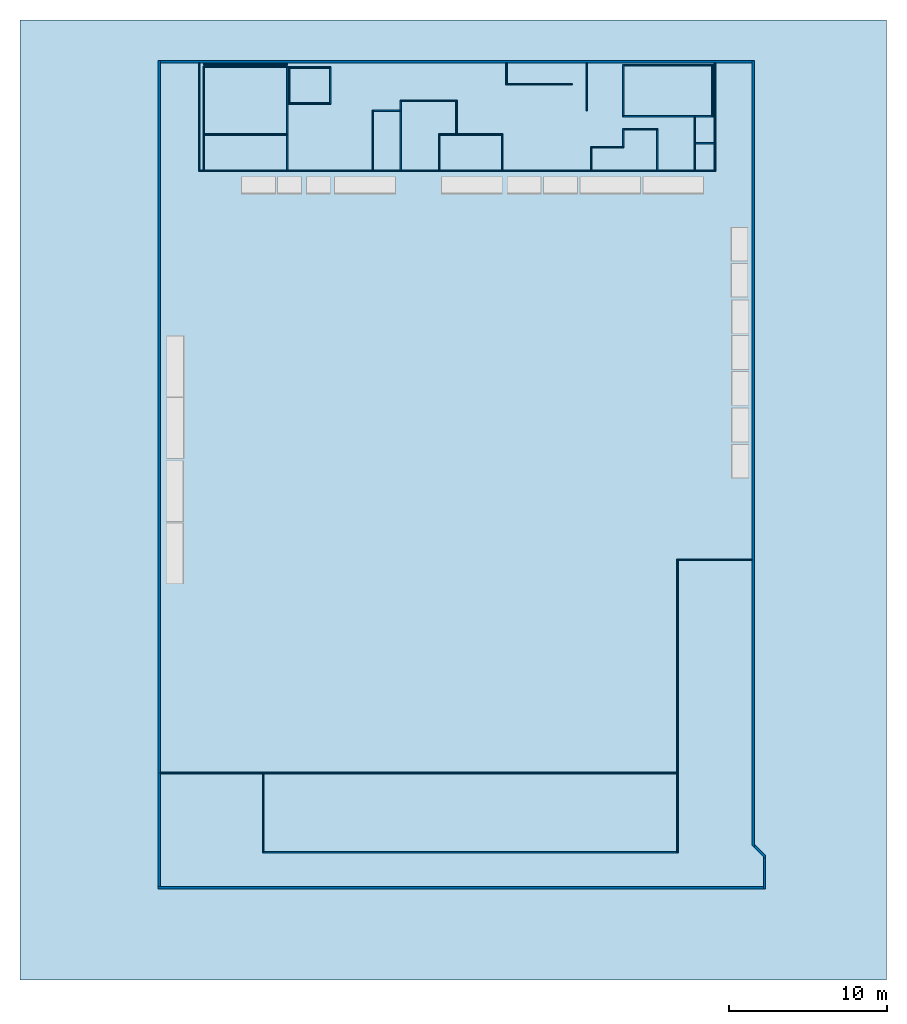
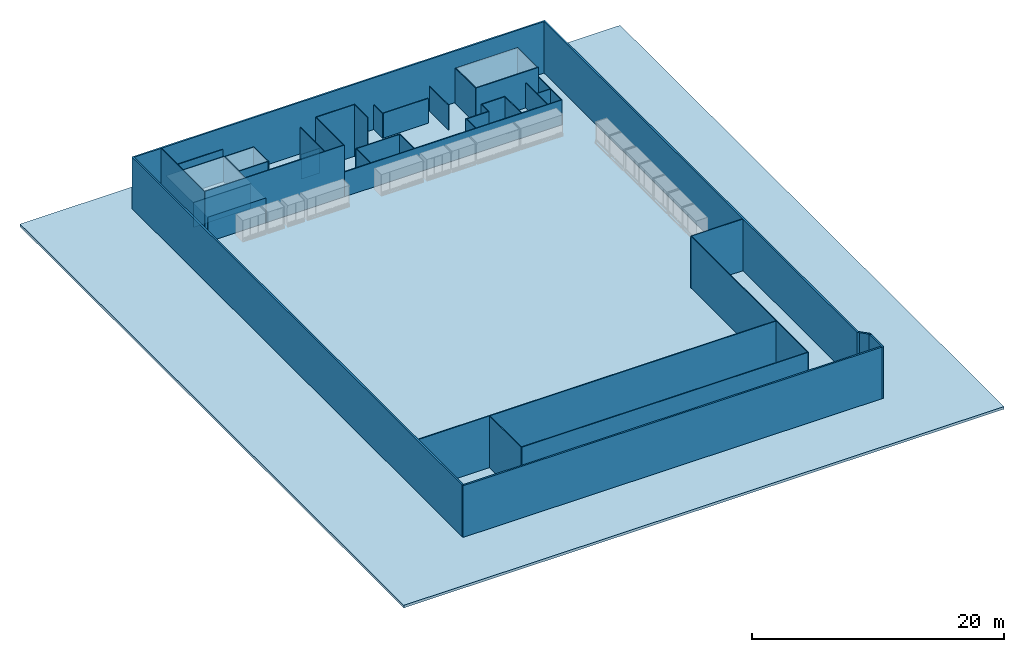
# One storey, part 1 of 11: 47 walls, 5 slabs.
"""IFC2X3 building model written with IfcOpenShell, lengths in metres."""

from ifc_helpers import new_model, entity, si_unit, converted_unit, derived_unit, direction, frame, frame_2d, origin, origin_2d_with_axis, place, context, subcontext, project, spatial, polyline, rectangle, outline, extrude, clip, bounded_halfspace, material, layer, layer_set, layer_usage, type_object, element, save


model = new_model("IFC2X3")

# Units and contexts
model_context = context("Model", 3, precision=1e-05, world=origin(), true_north=direction((6.12303176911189e-17, 1.0)))
body_context = subcontext(model_context, "Body", "Model", "MODEL_VIEW")
ifc_project = project(units=[si_unit("LENGTHUNIT", "METRE"), si_unit("AREAUNIT", "SQUARE_METRE"), si_unit("VOLUMEUNIT", "CUBIC_METRE"), converted_unit("PLANEANGLEUNIT", "DEGREE", entity("IfcRatioMeasure", 0.0174532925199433), si_unit("PLANEANGLEUNIT", "RADIAN"), dimensions=[0, 0, 0, 0, 0, 0, 0]), si_unit("MASSUNIT", "GRAM", prefix="KILO"), derived_unit("MASSDENSITYUNIT", [(si_unit("MASSUNIT", "GRAM", prefix="KILO"), 1), (si_unit("LENGTHUNIT", "METRE"), -3)]), si_unit("TIMEUNIT", "SECOND"), si_unit("FREQUENCYUNIT", "HERTZ"), si_unit("THERMODYNAMICTEMPERATUREUNIT", "DEGREE_CELSIUS"), derived_unit("THERMALTRANSMITTANCEUNIT", [(si_unit("MASSUNIT", "GRAM", prefix="KILO"), 1), (si_unit("THERMODYNAMICTEMPERATUREUNIT", "KELVIN"), -1), (si_unit("TIMEUNIT", "SECOND"), -3)]), derived_unit("VOLUMETRICFLOWRATEUNIT", [(si_unit("LENGTHUNIT", "METRE"), 3), (si_unit("TIMEUNIT", "SECOND"), -1)]), si_unit("ELECTRICCURRENTUNIT", "AMPERE"), si_unit("ELECTRICVOLTAGEUNIT", "VOLT"), si_unit("POWERUNIT", "WATT"), si_unit("FORCEUNIT", "NEWTON", prefix="KILO"), si_unit("ILLUMINANCEUNIT", "LUX"), si_unit("LUMINOUSFLUXUNIT", "LUMEN"), si_unit("LUMINOUSINTENSITYUNIT", "CANDELA"), derived_unit("USERDEFINED", [(si_unit("MASSUNIT", "GRAM", prefix="KILO"), -1), (si_unit("LENGTHUNIT", "METRE"), -2), (si_unit("TIMEUNIT", "SECOND"), 3), (si_unit("LUMINOUSFLUXUNIT", "LUMEN"), 1)]), derived_unit("LINEARVELOCITYUNIT", [(si_unit("LENGTHUNIT", "METRE"), 1), (si_unit("TIMEUNIT", "SECOND"), -1)]), si_unit("PRESSUREUNIT", "PASCAL"), derived_unit("USERDEFINED", [(si_unit("LENGTHUNIT", "METRE"), -2), (si_unit("MASSUNIT", "GRAM", prefix="KILO"), 1), (si_unit("TIMEUNIT", "SECOND"), -2)])], contexts=[model_context])

# Site, building, storey
site_placement = place(None, origin())
site = spatial("IfcSite", under=ifc_project, at=site_placement, Name="Default", CompositionType="ELEMENT")
building_placement = place(site_placement, origin())
building = spatial("IfcBuilding", under=site, at=building_placement, CompositionType="ELEMENT")
storey_placement = place(building_placement, frame((0.0, 0.0, 1.49233632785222)))
storey = spatial("IfcBuildingStorey", under=building, at=storey_placement, Name="Niveau 0", CompositionType="ELEMENT", Elevation=1.49233632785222)

# Slabs
ifc_material_1 = material(Name="Maçonnerie - Béton")
ifc_layer_1 = layer(ifc_material_1, 0.08)
ifc_layer_set_1 = layer_set([ifc_layer_1], Name="Sol:Dalle en béton - 80 mm")
ifc_layer_usage_1 = layer_usage(ifc_layer_set_1, "AXIS3", "POSITIVE", 0.0)
slab_type_1 = type_object("IfcSlabType", Name="Sol:Dalle en béton - 80 mm", PredefinedType="FLOOR", material=ifc_layer_set_1)
slab_1_placement = place(storey_placement, origin())
element("IfcSlab", 1, at=slab_1_placement, inside=storey, type_object=slab_type_1, material=ifc_layer_usage_1, Name="Sol:Dalle en béton - 80 mm", ObjectType="Sol:Dalle en béton - 80 mm", PredefinedType="FLOOR", context=body_context, shape_type="SweptSolid", body=[
    extrude(rectangle(XDim=4.29617941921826, YDim=5.34544618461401, at=frame_2d((4.44089209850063e-16, 0.0), x_axis=(1.0, 0.0))), frame((2.09019998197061, 4.81293960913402, 2.4), z_axis=(0.0, 0.0, -1.0), x_axis=(0.0, 1.0, 0.0)), (0.0, 0.0, 1.0), 0.0800000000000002),
])
ifc_layer_usage_2 = layer_usage(ifc_layer_set_1, "AXIS3", "POSITIVE", 0.0)
slab_type_2 = type_object("IfcSlabType", Name="Sol:Dalle en béton - 80 mm", PredefinedType="FLOOR", material=ifc_layer_set_1)
slab_2_placement = place(storey_placement, origin())
element("IfcSlab", 2, at=slab_2_placement, inside=storey, type_object=slab_type_2, material=ifc_layer_usage_2, Name="Sol:Dalle en béton - 80 mm", ObjectType="Sol:Dalle en béton - 80 mm", PredefinedType="FLOOR", context=body_context, shape_type="SweptSolid", body=[
    extrude(rectangle(XDim=2.30876789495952, YDim=5.30000000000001, at=origin_2d_with_axis()), frame((2.05447785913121, 1.50476650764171, 2.4), z_axis=(0.0, 0.0, -1.0), x_axis=(0.0, 1.0, 0.0)), (0.0, 0.0, 1.0), 0.0800000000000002),
])
ifc_layer_usage_3 = layer_usage(ifc_layer_set_1, "AXIS3", "POSITIVE", 0.0)
slab_type_3 = type_object("IfcSlabType", Name="Sol:Dalle en béton - 80 mm", PredefinedType="FLOOR", material=ifc_layer_set_1)
slab_3_placement = place(storey_placement, origin())
element("IfcSlab", 3, at=slab_3_placement, inside=storey, type_object=slab_type_3, material=ifc_layer_usage_3, Name="Sol:Dalle en béton - 80 mm", ObjectType="Sol:Dalle en béton - 80 mm", PredefinedType="FLOOR", context=body_context, shape_type="SweptSolid", body=[
    extrude(rectangle(XDim=2.25713213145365, YDim=2.65284619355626, at=frame_2d((-4.44089209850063e-16, 2.22044604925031e-16), x_axis=(1.0, 0.0))), frame((6.11041263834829, 5.7784208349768, 2.4), z_axis=(0.0, 0.0, -1.0), x_axis=(0.0, 1.0, 0.0)), (0.0, 0.0, 1.0), 0.0800000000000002),
])
ifc_layer_usage_4 = layer_usage(ifc_layer_set_1, "AXIS3", "POSITIVE", 0.0)
slab_type_4 = type_object("IfcSlabType", Name="Sol:Dalle en béton - 80 mm", PredefinedType="FLOOR", material=ifc_layer_set_1)
slab_4_placement = place(storey_placement, origin())
element("IfcSlab", 4, at=slab_4_placement, inside=storey, type_object=slab_type_4, material=ifc_layer_usage_4, Name="Sol:Dalle en béton - 80 mm", ObjectType="Sol:Dalle en béton - 80 mm", PredefinedType="FLOOR", context=body_context, shape_type="SweptSolid", body=[
    extrude(rectangle(XDim=3.16324074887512, YDim=5.62600395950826, at=frame_2d((0.0, -1.99840144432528e-15), x_axis=(1.0, 0.0))), frame((28.837791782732, 5.44056666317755, 3.5), z_axis=(0.0, 0.0, -1.0), x_axis=(0.0, 1.0, 0.0)), (0.0, 0.0, 1.0), 0.0800000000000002),
])
ifc_layer_2 = layer(ifc_material_1, 0.25)
ifc_layer_set_2 = layer_set([ifc_layer_2], Name="Sol:Dalle en béton - 250 mm")
ifc_layer_usage_5 = layer_usage(ifc_layer_set_2, "AXIS3", "POSITIVE", 0.0)
slab_type_5 = type_object("IfcSlabType", Name="Sol:Dalle en béton - 250 mm", PredefinedType="FLOOR", material=ifc_layer_set_2)
slab_5_placement = place(storey_placement, origin())
element("IfcSlab", 5, at=slab_5_placement, inside=storey, type_object=slab_type_5, material=ifc_layer_usage_5, Name="Sol:Dalle en béton - 250 mm", ObjectType="Sol:Dalle en béton - 250 mm", PredefinedType="FLOOR", context=body_context, shape_type="SweptSolid", body=[
    extrude(rectangle(XDim=60.8818990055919, YDim=54.9647186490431, at=origin_2d_with_axis()), frame((15.241466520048, -20.5197975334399, 0.0), z_axis=(0.0, 0.0, -1.0), x_axis=(0.0, 1.0, 0.0)), (0.0, 0.0, 1.0), 0.25),
])

# Walls
ifc_material_2 = material(Name="Mur par défaut")
ifc_layer_3 = layer(ifc_material_2, 0.07)
ifc_layer_set_3 = layer_set([ifc_layer_3], Name="Mur de base:Générique - Int. 70 mm")
ifc_layer_usage_6 = layer_usage(ifc_layer_set_3, "AXIS2", "NEGATIVE", 0.035)
wall_type_1 = type_object("IfcWallType", Name="Mur de base:Générique - Int. 70 mm", PredefinedType="STANDARD", material=ifc_layer_set_3)
wall_1_placement = place(storey_placement, frame((4.78183573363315, 6.90698690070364, 0.0)))
element("IfcWallStandardCase", 6, at=wall_1_placement, inside=storey, type_object=wall_type_1, material=ifc_layer_usage_6, Name="Mur de base:Générique - Int. 70 mm", ObjectType="Mur de base:Générique - Int. 70 mm", context=body_context, shape_type="SweptSolid", body=[
    extrude(rectangle(XDim=2.69000000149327, YDim=0.0699999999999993, at=frame_2d((1.34500000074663, 2.56739074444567e-16), x_axis=(-1.0, 0.0))), origin(), (0.0, 0.0, 1.0), 2.4),
])
ifc_layer_usage_7 = layer_usage(ifc_layer_set_3, "AXIS2", "NEGATIVE", 0.035)
wall_2_placement = place(storey_placement, frame((7.43683573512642, 6.87198690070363, 0.0), z_axis=(0.0, 0.0, 1.0), x_axis=(0.0, -1.0, 0.0)))
element("IfcWallStandardCase", 7, at=wall_2_placement, inside=storey, type_object=wall_type_1, material=ifc_layer_usage_7, Name="Mur de base:Générique - Int. 70 mm", ObjectType="Mur de base:Générique - Int. 70 mm", context=body_context, shape_type="SweptSolid", body=[
    extrude(rectangle(XDim=2.28371681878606, YDim=0.0699999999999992, at=frame_2d((1.14185840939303, -1.90819582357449e-16), x_axis=(-1.0, 0.0))), origin(), (0.0, 0.0, 1.0), 2.4),
])
ifc_layer_usage_8 = layer_usage(ifc_layer_set_3, "AXIS2", "NEGATIVE", 0.035)
wall_3_placement = place(storey_placement, frame((7.40183573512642, 4.62327008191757, 0.0), z_axis=(0.0, 0.0, 1.0), x_axis=(-1.0, 0.0, 0.0)))
element("IfcWallStandardCase", 8, at=wall_3_placement, inside=storey, type_object=wall_type_1, material=ifc_layer_usage_8, Name="Mur de base:Générique - Int. 70 mm", ObjectType="Mur de base:Générique - Int. 70 mm", context=body_context, shape_type="SweptSolid", body=[
    extrude(rectangle(XDim=2.62000000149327, YDim=0.0700000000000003, at=frame_2d((1.31000000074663, -1.42247325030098e-16), x_axis=(-1.0, 0.0))), origin(), (0.0, 0.0, 1.0), 2.4),
])
ifc_layer_usage_9 = layer_usage(ifc_layer_set_3, "AXIS2", "NEGATIVE", 0.035)
wall_4_placement = place(storey_placement, frame((4.81683573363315, 4.65827008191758, 0.0), z_axis=(0.0, 0.0, 1.0), x_axis=(0.0, 1.0, 0.0)))
element("IfcWallStandardCase", 9, at=wall_4_placement, inside=storey, type_object=wall_type_1, material=ifc_layer_usage_9, Name="Mur de base:Générique - Int. 70 mm", ObjectType="Mur de base:Générique - Int. 70 mm", context=body_context, shape_type="SweptSolid", body=[
    extrude(rectangle(XDim=2.21371681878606, YDim=0.0700000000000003, at=frame_2d((1.10685840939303, 2.08166817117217e-17), x_axis=(-1.0, 0.0))), origin(), (0.0, 0.0, 1.0), 2.4),
])
ifc_layer_usage_10 = layer_usage(ifc_layer_set_3, "AXIS2", "NEGATIVE", 0.035)
wall_5_placement = place(storey_placement, frame((-0.595522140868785, 7.12698690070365, 0.0)))
element("IfcWallStandardCase", 10, at=wall_5_placement, inside=storey, type_object=wall_type_1, material=ifc_layer_usage_10, Name="Mur de base:Générique - Int. 70 mm", ObjectType="Mur de base:Générique - Int. 70 mm", context=body_context, shape_type="SweptSolid", body=[
    extrude(rectangle(XDim=5.3, YDim=0.0699999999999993, at=frame_2d((2.65, 4.16333634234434e-17), x_axis=(-1.0, 0.0))), origin(), (0.0, 0.0, 1.0), 3.0),
])
ifc_layer_usage_11 = layer_usage(ifc_layer_set_3, "AXIS2", "NEGATIVE", 0.035)
wall_6_placement = place(storey_placement, frame((4.70447785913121, 6.92602931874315, 0.0), z_axis=(0.0, 0.0, 1.0), x_axis=(0.0, -1.0, 0.0)))
element("IfcWallStandardCase", 11, at=wall_6_placement, inside=storey, type_object=wall_type_1, material=ifc_layer_usage_11, Name="Mur de base:Générique - Int. 70 mm", ObjectType="Mur de base:Générique - Int. 70 mm", context=body_context, shape_type="SweptSolid", body=[
    extrude(rectangle(XDim=6.54064675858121, YDim=0.0700000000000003, at=frame_2d((3.2703233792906, 2.18575157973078e-16), x_axis=(-1.0, 0.0))), origin(), (0.0, 0.0, 1.0), 2.4),
])
ifc_layer_usage_12 = layer_usage(ifc_layer_set_3, "AXIS2", "NEGATIVE", 0.035)
wall_7_placement = place(storey_placement, frame((4.66947785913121, 2.65915045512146, 0.0), z_axis=(0.0, 0.0, 1.0), x_axis=(-1.0, 0.0, 0.0)))
element("IfcWallStandardCase", 12, at=wall_7_placement, inside=storey, type_object=wall_type_1, material=ifc_layer_usage_12, Name="Mur de base:Générique - Int. 70 mm", ObjectType="Mur de base:Générique - Int. 70 mm", context=body_context, shape_type="SweptSolid", body=[
    extrude(rectangle(XDim=5.23000000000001, YDim=0.0700000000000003, at=frame_2d((2.615, -1.14491749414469e-16), x_axis=(-1.0, 0.0))), origin(), (0.0, 0.0, 1.0), 2.4),
])
ifc_layer_usage_13 = layer_usage(ifc_layer_set_3, "AXIS2", "NEGATIVE", 0.035)
wall_8_placement = place(storey_placement, frame((4.73947785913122, 6.96102931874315, 0.0), z_axis=(0.0, 0.0, 1.0), x_axis=(-1.0, 0.0, 0.0)))
element("IfcWallStandardCase", 13, at=wall_8_placement, inside=storey, type_object=wall_type_1, material=ifc_layer_usage_13, Name="Mur de base:Générique - Int. 70 mm", ObjectType="Mur de base:Générique - Int. 70 mm", context=body_context, shape_type="SweptSolid", body=[
    extrude(rectangle(XDim=5.3, YDim=0.0699999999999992, at=frame_2d((2.65, 0.0), x_axis=(-1.0, 0.0))), origin(), (0.0, 0.0, 1.0), 2.4),
])
ifc_layer_usage_14 = layer_usage(ifc_layer_set_3, "AXIS2", "NEGATIVE", 0.035)
wall_9_placement = place(storey_placement, frame((-0.595522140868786, 6.99602931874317, 0.0), z_axis=(0.0, 0.0, 1.0), x_axis=(0.0, -1.0, 0.0)))
element("IfcWallStandardCase", 14, at=wall_9_placement, inside=storey, type_object=wall_type_1, material=ifc_layer_usage_14, Name="Mur de base:Générique - Int. 70 mm", ObjectType="Mur de base:Générique - Int. 70 mm", context=body_context, shape_type="SweptSolid", body=[
    extrude(rectangle(XDim=6.68064675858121, YDim=0.0700000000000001, at=frame_2d((3.3403233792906, 4.5102810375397e-17), x_axis=(-1.0, 0.0))), origin(), (0.0, 0.0, 1.0), 2.4),
])
ifc_layer_usage_15 = layer_usage(ifc_layer_set_3, "AXIS2", "NEGATIVE", 0.035)
wall_10_placement = place(storey_placement, frame((-0.560522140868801, 0.350382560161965, 0.0)))
element("IfcWallStandardCase", 15, at=wall_10_placement, inside=storey, type_object=wall_type_1, material=ifc_layer_usage_15, Name="Mur de base:Générique - Int. 70 mm", ObjectType="Mur de base:Générique - Int. 70 mm", context=body_context, shape_type="SweptSolid", body=[
    extrude(rectangle(XDim=5.30000000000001, YDim=0.0700000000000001, at=frame_2d((2.65, 0.0), x_axis=(-1.0, 0.0))), origin(), (0.0, 0.0, 1.0), 2.4),
])
ifc_layer_usage_16 = layer_usage(ifc_layer_set_3, "AXIS2", "NEGATIVE", 0.035)
wall_11_placement = place(storey_placement, frame((10.1366921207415, 0.385382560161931, 0.0), z_axis=(0.0, 0.0, 1.0), x_axis=(0.0, 1.0, 0.0)))
element("IfcWallStandardCase", 16, at=wall_11_placement, inside=storey, type_object=wall_type_1, material=ifc_layer_usage_16, Name="Mur de base:Générique - Int. 70 mm", ObjectType="Mur de base:Générique - Int. 70 mm", context=body_context, shape_type="SweptSolid", body=[
    extrude(rectangle(XDim=3.81519610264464, YDim=0.0700000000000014, at=frame_2d((1.90759805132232, 0.0), x_axis=(-1.0, 0.0))), origin(), (0.0, 0.0, 1.0), 5.0),
])
ifc_layer_usage_17 = layer_usage(ifc_layer_set_3, "AXIS2", "NEGATIVE", 0.035)
wall_12_placement = place(storey_placement, frame((10.1716921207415, 4.16557866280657, 0.0)))
element("IfcWallStandardCase", 17, at=wall_12_placement, inside=storey, type_object=wall_type_1, material=ifc_layer_usage_17, Name="Mur de base:Générique - Int. 70 mm", ObjectType="Mur de base:Générique - Int. 70 mm", context=body_context, shape_type="SweptSolid", body=[
    extrude(rectangle(XDim=1.69770911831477, YDim=0.0700000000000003, at=frame_2d((0.848854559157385, -1.17961196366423e-16), x_axis=(-1.0, 0.0))), origin(), (0.0, 0.0, 1.0), 2.4),
])
ifc_layer_usage_18 = layer_usage(ifc_layer_set_3, "AXIS2", "NEGATIVE", 0.035)
wall_13_placement = place(storey_placement, frame((-0.862656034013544, 7.20798690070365, 0.0), z_axis=(0.0, 0.0, 1.0), x_axis=(0.0, -1.0, 0.0)))
element("IfcWallStandardCase", 18, at=wall_13_placement, inside=storey, type_object=wall_type_1, material=ifc_layer_usage_18, Name="Mur de base:Générique - Int. 70 mm", ObjectType="Mur de base:Générique - Int. 70 mm", context=body_context, shape_type="SweptSolid", body=[
    extrude(rectangle(XDim=6.89260434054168, YDim=0.0700000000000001, at=frame_2d((3.44630217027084, 3.46944695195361e-17), x_axis=(-1.0, 0.0))), origin(), (0.0, 0.0, 1.0), 5.0),
])
ifc_layer_usage_19 = layer_usage(ifc_layer_set_3, "AXIS2", "NEGATIVE", 0.035)
wall_14_placement = place(storey_placement, frame((-0.827656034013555, 0.350382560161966, 0.0)))
element("IfcWallStandardCase", 19, at=wall_14_placement, inside=storey, type_object=wall_type_1, material=ifc_layer_usage_19, Name="Mur de base:Générique - Int. 70 mm", ObjectType="Mur de base:Générique - Int. 70 mm", context=body_context, shape_type="SweptSolid", body=[
    extrude(rectangle(XDim=12.7670572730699, YDim=0.0700000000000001, at=frame_2d((6.38352863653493, 0.0), x_axis=(-1.0, 0.0))), origin(), (0.0, 0.0, 1.0), 5.0),
])
ifc_layer_usage_20 = layer_usage(ifc_layer_set_3, "AXIS2", "NEGATIVE", 0.035)
wall_15_placement = place(storey_placement, frame((11.9044012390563, 0.385382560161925, 0.0), z_axis=(0.0, 0.0, 1.0), x_axis=(0.0, 1.0, 0.0)))
element("IfcWallStandardCase", 20, at=wall_15_placement, inside=storey, type_object=wall_type_1, material=ifc_layer_usage_20, Name="Mur de base:Générique - Int. 70 mm", ObjectType="Mur de base:Générique - Int. 70 mm", context=body_context, shape_type="SweptSolid", body=[
    extrude(rectangle(XDim=4.45547795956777, YDim=0.0700000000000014, at=frame_2d((2.22773897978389, 0.0), x_axis=(-1.0, 0.0))), origin(), (0.0, 0.0, 1.0), 5.0),
])
ifc_layer_usage_21 = layer_usage(ifc_layer_set_3, "AXIS2", "NEGATIVE", 0.035)
wall_16_placement = place(storey_placement, frame((11.9394012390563, 4.8058605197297, 0.0)))
element("IfcWallStandardCase", 21, at=wall_16_placement, inside=storey, type_object=wall_type_1, material=ifc_layer_usage_21, Name="Mur de base:Générique - Int. 70 mm", ObjectType="Mur de base:Générique - Int. 70 mm", context=body_context, shape_type="SweptSolid", body=[
    extrude(rectangle(XDim=3.53796057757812, YDim=0.0700000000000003, at=frame_2d((1.76898028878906, 0.0), x_axis=(-1.0, 0.0))), origin(), (0.0, 0.0, 1.0), 5.0),
])
ifc_layer_usage_22 = layer_usage(ifc_layer_set_3, "AXIS2", "NEGATIVE", 0.035)
wall_17_placement = place(storey_placement, frame((15.4423618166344, 4.77086051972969, 0.0), z_axis=(0.0, 0.0, 1.0), x_axis=(0.0, -1.0, 0.0)))
element("IfcWallStandardCase", 22, at=wall_17_placement, inside=storey, type_object=wall_type_1, material=ifc_layer_usage_22, Name="Mur de base:Générique - Int. 70 mm", ObjectType="Mur de base:Générique - Int. 70 mm", context=body_context, shape_type="SweptSolid", body=[
    extrude(rectangle(XDim=2.07671006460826, YDim=0.0700000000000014, at=frame_2d((1.03835503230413, -6.93889390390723e-17), x_axis=(-1.0, 0.0))), origin(), (0.0, 0.0, 1.0), 5.0),
])
ifc_layer_usage_23 = layer_usage(ifc_layer_set_3, "AXIS2", "NEGATIVE", 0.035)
wall_18_placement = place(storey_placement, frame((11.9394012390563, 0.350382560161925, 0.0)))
element("IfcWallStandardCase", 23, at=wall_18_placement, inside=storey, type_object=wall_type_1, material=ifc_layer_usage_23, Name="Mur de base:Générique - Int. 70 mm", ObjectType="Mur de base:Générique - Int. 70 mm", context=body_context, shape_type="SweptSolid", body=[
    extrude(rectangle(XDim=19.9279455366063, YDim=0.0700000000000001, at=frame_2d((9.96397276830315, 0.0), x_axis=(-1.0, 0.0))), origin(), (0.0, 0.0, 1.0), 2.4),
])
ifc_layer_usage_24 = layer_usage(ifc_layer_set_3, "AXIS2", "NEGATIVE", 0.035)
wall_19_placement = place(storey_placement, frame((31.8323467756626, 0.38538256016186, 0.0), z_axis=(0.0, 0.0, 1.0), x_axis=(0.0, 1.0, 0.0)))
element("IfcWallStandardCase", 24, at=wall_19_placement, inside=storey, type_object=wall_type_1, material=ifc_layer_usage_24, Name="Mur de base:Générique - Int. 70 mm", ObjectType="Mur de base:Générique - Int. 70 mm", context=body_context, shape_type="SweptSolid", body=[
    extrude(rectangle(XDim=6.82260434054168, YDim=0.0700000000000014, at=frame_2d((3.41130217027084, -1.04083408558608e-16), x_axis=(-1.0, 0.0))), origin(), (0.0, 0.0, 1.0), 2.4),
])
ifc_layer_usage_25 = layer_usage(ifc_layer_set_3, "AXIS2", "NEGATIVE", 0.035)
wall_20_placement = place(storey_placement, frame((18.3367420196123, 0.385382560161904, 0.0), z_axis=(0.0, 0.0, 1.0), x_axis=(0.0, 1.0, 0.0)))
element("IfcWallStandardCase", 25, at=wall_20_placement, inside=storey, type_object=wall_type_1, material=ifc_layer_usage_25, Name="Mur de base:Générique - Int. 70 mm", ObjectType="Mur de base:Générique - Int. 70 mm", context=body_context, shape_type="SweptSolid", body=[
    extrude(rectangle(XDim=2.30876789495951, YDim=0.0700000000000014, at=frame_2d((1.15438394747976, 0.0), x_axis=(-1.0, 0.0))), origin(), (0.0, 0.0, 1.0), 2.4),
])
ifc_layer_usage_26 = layer_usage(ifc_layer_set_3, "AXIS2", "NEGATIVE", 0.035)
wall_21_placement = place(storey_placement, frame((18.3017420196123, 2.65915045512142, 0.0), z_axis=(0.0, 0.0, 1.0), x_axis=(-1.0, 0.0, 0.0)))
element("IfcWallStandardCase", 26, at=wall_21_placement, inside=storey, type_object=wall_type_1, material=ifc_layer_usage_26, Name="Mur de base:Générique - Int. 70 mm", ObjectType="Mur de base:Générique - Int. 70 mm", context=body_context, shape_type="SweptSolid", body=[
    extrude(rectangle(XDim=3.98331974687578, YDim=0.0700000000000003, at=frame_2d((1.99165987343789, 0.0), x_axis=(-1.0, 0.0))), origin(), (0.0, 0.0, 1.0), 2.4),
])
ifc_layer_usage_27 = layer_usage(ifc_layer_set_3, "AXIS2", "NEGATIVE", 0.035)
wall_22_placement = place(storey_placement, frame((14.3534222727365, 2.62415045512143, 0.0), z_axis=(0.0, 0.0, 1.0), x_axis=(0.0, -1.0, 0.0)))
element("IfcWallStandardCase", 27, at=wall_22_placement, inside=storey, type_object=wall_type_1, material=ifc_layer_usage_27, Name="Mur de base:Générique - Int. 70 mm", ObjectType="Mur de base:Générique - Int. 70 mm", context=body_context, shape_type="SweptSolid", body=[
    extrude(rectangle(XDim=2.23876789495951, YDim=0.0700000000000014, at=frame_2d((1.11938394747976, -6.59194920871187e-17), x_axis=(-1.0, 0.0))), origin(), (0.0, 0.0, 1.0), 2.4),
])
ifc_layer_usage_28 = layer_usage(ifc_layer_set_3, "AXIS2", "NEGATIVE", 0.035)
wall_23_placement = place(storey_placement, frame((23.7074733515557, 7.20798690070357, 0.0), z_axis=(0.0, 0.0, 1.0), x_axis=(0.0, -1.0, 0.0)))
element("IfcWallStandardCase", 28, at=wall_23_placement, inside=storey, type_object=wall_type_1, material=ifc_layer_usage_28, Name="Mur de base:Générique - Int. 70 mm", ObjectType="Mur de base:Générique - Int. 70 mm", context=body_context, shape_type="SweptSolid", body=[
    extrude(rectangle(XDim=3.04240823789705, YDim=0.0700000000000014, at=frame_2d((1.52120411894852, -5.20417042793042e-17), x_axis=(-1.0, 0.0))), origin(), (0.0, 0.0, 1.0), 2.4),
])
ifc_layer_usage_29 = layer_usage(ifc_layer_set_3, "AXIS2", "NEGATIVE", 0.035)
wall_24_placement = place(storey_placement, frame((26.01447949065, 7.09218703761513, 0.0), z_axis=(0.0, 0.0, 1.0), x_axis=(0.0, -1.0, 0.0)))
element("IfcWallStandardCase", 29, at=wall_24_placement, inside=storey, type_object=wall_type_1, material=ifc_layer_usage_29, Name="Mur de base:Générique - Int. 70 mm", ObjectType="Mur de base:Générique - Int. 70 mm", context=body_context, shape_type="Clipping", body=[
    clip(extrude(rectangle(XDim=3.2405023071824, YDim=0.0700000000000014, at=frame_2d((1.6202511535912, 8.67361737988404e-17), x_axis=(-1.0, 0.0))), origin(), (0.0, 0.0, 1.0), 3.42), bounded_halfspace(frame((3.23324074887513, 0.010310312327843, 3.42), z_axis=(0.0, 0.0, -1.0), x_axis=(1.0, 0.0, 0.0)), True, frame((3.23324074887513, 0.010310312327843, 3.42)), polyline([(0.0, 0.0), (0.0, 0.0246896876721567), (-3.16324074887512, 0.0246896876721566), (-3.16324074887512, 0.0), (0.0, 0.0)]))),
])
ifc_layer_usage_30 = layer_usage(ifc_layer_set_3, "AXIS2", "NEGATIVE", 0.035)
wall_25_placement = place(storey_placement, frame((18.6135569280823, 7.20798690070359, 0.0), z_axis=(0.0, 0.0, 1.0), x_axis=(0.0, -1.0, 0.0)))
element("IfcWallStandardCase", 30, at=wall_25_placement, inside=storey, type_object=wall_type_1, material=ifc_layer_usage_30, Name="Mur de base:Générique - Int. 70 mm", ObjectType="Mur de base:Générique - Int. 70 mm", context=body_context, shape_type="SweptSolid", body=[
    extrude(rectangle(XDim=1.40517395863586, YDim=0.0700000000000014, at=frame_2d((0.702586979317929, -2.77555756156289e-17), x_axis=(-1.0, 0.0))), origin(), (0.0, 0.0, 1.0), 2.4),
])
ifc_layer_usage_31 = layer_usage(ifc_layer_set_3, "AXIS2", "NEGATIVE", 0.035)
wall_26_placement = place(storey_placement, frame((18.6485569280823, 5.83781294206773, 0.0)))
element("IfcWallStandardCase", 31, at=wall_26_placement, inside=storey, type_object=wall_type_1, material=ifc_layer_usage_31, Name="Mur de base:Générique - Int. 70 mm", ObjectType="Mur de base:Générique - Int. 70 mm", context=body_context, shape_type="SweptSolid", body=[
    extrude(rectangle(XDim=4.12236178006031, YDim=0.0699999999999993, at=frame_2d((2.06118089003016, 3.81639164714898e-17), x_axis=(-1.0, 0.0))), origin(), (0.0, 0.0, 1.0), 2.4),
])
ifc_layer_usage_32 = layer_usage(ifc_layer_set_3, "AXIS2", "NEGATIVE", 0.035)
wall_27_placement = place(storey_placement, frame((31.7139214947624, 3.8166847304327, 0.0), z_axis=(0.0, 0.0, 1.0), x_axis=(-1.0, 0.0, 0.0)))
element("IfcWallStandardCase", 32, at=wall_27_placement, inside=storey, type_object=wall_type_1, material=ifc_layer_usage_32, Name="Mur de base:Générique - Int. 70 mm", ObjectType="Mur de base:Générique - Int. 70 mm", context=body_context, shape_type="SweptSolid", body=[
    extrude(rectangle(XDim=5.73444200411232, YDim=0.0700000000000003, at=frame_2d((2.86722100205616, 1.35308431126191e-16), x_axis=(-1.0, 0.0))), origin(), (0.0, 0.0, 1.0), 3.5),
])
ifc_layer_usage_33 = layer_usage(ifc_layer_set_3, "AXIS2", "NEGATIVE", 0.035)
wall_28_placement = place(storey_placement, frame((23.9750098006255, 0.385382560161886, 0.0), z_axis=(0.0, 0.0, 1.0), x_axis=(0.0, 1.0, 0.0)))
element("IfcWallStandardCase", 33, at=wall_28_placement, inside=storey, type_object=wall_type_1, material=ifc_layer_usage_33, Name="Mur de base:Générique - Int. 70 mm", ObjectType="Mur de base:Générique - Int. 70 mm", context=body_context, shape_type="SweptSolid", body=[
    extrude(rectangle(XDim=1.50558068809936, YDim=0.0700000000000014, at=frame_2d((0.752790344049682, 0.0), x_axis=(-1.0, 0.0))), origin(), (0.0, 0.0, 1.0), 2.4),
])
ifc_layer_usage_34 = layer_usage(ifc_layer_set_3, "AXIS2", "NEGATIVE", 0.035)
wall_29_placement = place(storey_placement, frame((24.0100098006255, 1.85596324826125, 0.0)))
element("IfcWallStandardCase", 34, at=wall_29_placement, inside=storey, type_object=wall_type_1, material=ifc_layer_usage_34, Name="Mur de base:Générique - Int. 70 mm", ObjectType="Mur de base:Générique - Int. 70 mm", context=body_context, shape_type="SweptSolid", body=[
    extrude(rectangle(XDim=2.03946969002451, YDim=0.0699999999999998, at=frame_2d((1.01973484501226, 0.0), x_axis=(-1.0, 0.0))), origin(), (0.0, 0.0, 1.0), 2.4),
])
ifc_layer_usage_35 = layer_usage(ifc_layer_set_3, "AXIS2", "NEGATIVE", 0.035)
wall_30_placement = place(storey_placement, frame((26.01447949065, 1.89096324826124, 0.0), z_axis=(0.0, 0.0, 1.0), x_axis=(0.0, 1.0, 0.0)))
element("IfcWallStandardCase", 35, at=wall_30_placement, inside=storey, type_object=wall_type_1, material=ifc_layer_usage_35, Name="Mur de base:Générique - Int. 70 mm", ObjectType="Mur de base:Générique - Int. 70 mm", context=body_context, shape_type="SweptSolid", body=[
    extrude(rectangle(XDim=1.14202229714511, YDim=0.0700000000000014, at=frame_2d((0.571011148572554, 0.0), x_axis=(-1.0, 0.0))), origin(), (0.0, 0.0, 1.0), 2.4),
])
ifc_layer_usage_36 = layer_usage(ifc_layer_set_3, "AXIS2", "NEGATIVE", 0.035)
wall_31_placement = place(storey_placement, frame((26.04947949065, 2.99798554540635, 0.0)))
element("IfcWallStandardCase", 36, at=wall_31_placement, inside=storey, type_object=wall_type_1, material=ifc_layer_usage_36, Name="Mur de base:Générique - Int. 70 mm", ObjectType="Mur de base:Générique - Int. 70 mm", context=body_context, shape_type="SweptSolid", body=[
    extrude(rectangle(XDim=2.15716326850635, YDim=0.0700000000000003, at=frame_2d((1.07858163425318, 0.0), x_axis=(-1.0, 0.0))), origin(), (0.0, 0.0, 1.0), 2.4),
])
ifc_layer_usage_37 = layer_usage(ifc_layer_set_3, "AXIS2", "NEGATIVE", 0.035)
wall_32_placement = place(storey_placement, frame((28.1716427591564, 2.96298554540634, 0.0), z_axis=(0.0, 0.0, 1.0), x_axis=(0.0, -1.0, 0.0)))
element("IfcWallStandardCase", 37, at=wall_32_placement, inside=storey, type_object=wall_type_1, material=ifc_layer_usage_37, Name="Mur de base:Générique - Int. 70 mm", ObjectType="Mur de base:Générique - Int. 70 mm", context=body_context, shape_type="SweptSolid", body=[
    extrude(rectangle(XDim=2.57760298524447, YDim=0.0700000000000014, at=frame_2d((1.28880149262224, -5.55111512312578e-17), x_axis=(-1.0, 0.0))), origin(), (0.0, 0.0, 1.0), 2.4),
])
ifc_layer_usage_38 = layer_usage(ifc_layer_set_3, "AXIS2", "POSITIVE", -0.035)
wall_33_placement = place(storey_placement, frame((30.5549080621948, 3.78168473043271, 0.0), z_axis=(0.0, 0.0, 1.0), x_axis=(0.0, -1.0, 0.0)))
element("IfcWallStandardCase", 38, at=wall_33_placement, inside=storey, type_object=wall_type_1, material=ifc_layer_usage_38, Name="Mur de base:Générique - Int. 70 mm", ObjectType="Mur de base:Générique - Int. 70 mm", context=body_context, shape_type="SweptSolid", body=[
    extrude(rectangle(XDim=3.39630217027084, YDim=0.0700000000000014, at=frame_2d((1.69815108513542, -4.16333634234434e-17), x_axis=(-1.0, 0.0))), origin(), (0.0, 0.0, 1.0), 2.4),
])
ifc_layer_usage_39 = layer_usage(ifc_layer_set_3, "AXIS2", "NEGATIVE", 0.035)
wall_34_placement = place(storey_placement, frame((31.7973467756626, 2.1015510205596, 0.0), z_axis=(0.0, 0.0, 1.0), x_axis=(-1.0, 0.0, 0.0)))
element("IfcWallStandardCase", 39, at=wall_34_placement, inside=storey, type_object=wall_type_1, material=ifc_layer_usage_39, Name="Mur de base:Générique - Int. 70 mm", ObjectType="Mur de base:Générique - Int. 70 mm", context=body_context, shape_type="SweptSolid", body=[
    extrude(rectangle(XDim=1.20743871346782, YDim=0.0699999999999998, at=frame_2d((0.60371935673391, -1.11022302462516e-16), x_axis=(-1.0, 0.0))), origin(), (0.0, 0.0, 1.0), 2.4),
])
ifc_layer_usage_40 = layer_usage(ifc_layer_set_3, "AXIS2", "NEGATIVE", 0.035)
wall_35_placement = place(storey_placement, frame((34.1914818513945, -24.3011494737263, 0.0), z_axis=(0.0, 0.0, 1.0), x_axis=(-1.0, 0.0, 0.0)))
element("IfcWallStandardCase", 40, at=wall_35_placement, inside=storey, type_object=wall_type_1, material=ifc_layer_usage_40, Name="Mur de base:Générique - Int. 70 mm", ObjectType="Mur de base:Générique - Int. 70 mm", context=body_context, shape_type="SweptSolid", body=[
    extrude(rectangle(XDim=4.76742591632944, YDim=0.0700000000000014, at=frame_2d((2.38371295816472, -6.93889390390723e-17), x_axis=(-1.0, 0.0))), origin(), (0.0, 0.0, 1.0), 5.0),
])
ifc_layer_usage_41 = layer_usage(ifc_layer_set_3, "AXIS2", "NEGATIVE", 0.035)
wall_36_placement = place(storey_placement, frame((29.459055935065, -24.3361494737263, 0.0), z_axis=(0.0, 0.0, 1.0), x_axis=(0.0, -1.0, 0.0)))
element("IfcWallStandardCase", 41, at=wall_36_placement, inside=storey, type_object=wall_type_1, material=ifc_layer_usage_41, Name="Mur de base:Générique - Int. 70 mm", ObjectType="Mur de base:Générique - Int. 70 mm", context=body_context, shape_type="SweptSolid", body=[
    extrude(rectangle(XDim=18.558325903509, YDim=0.0700000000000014, at=frame_2d((9.27916295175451, 0.0), x_axis=(-1.0, 0.0))), origin(), (0.0, 0.0, 1.0), 5.0),
])
ifc_layer_usage_42 = layer_usage(ifc_layer_set_3, "AXIS2", "NEGATIVE", 0.035)
wall_37_placement = place(storey_placement, frame((-3.33552214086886, -37.8320932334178, 0.0)))
element("IfcWallStandardCase", 42, at=wall_37_placement, inside=storey, type_object=wall_type_1, material=ifc_layer_usage_42, Name="Mur de base:Générique - Int. 70 mm", ObjectType="Mur de base:Générique - Int. 70 mm", context=body_context, shape_type="SweptSolid", body=[
    extrude(rectangle(XDim=32.7595780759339, YDim=0.0700000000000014, at=frame_2d((16.3797890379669, -1.80411241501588e-16), x_axis=(-1.0, 0.0))), origin(), (0.0, 0.0, 1.0), 5.0),
])
ifc_layer_usage_43 = layer_usage(ifc_layer_set_3, "AXIS2", "NEGATIVE", 0.035)
wall_38_placement = place(storey_placement, frame((3.19289562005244, -37.8670932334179, 0.0), z_axis=(0.0, 0.0, 1.0), x_axis=(0.0, -1.0, 0.0)))
element("IfcWallStandardCase", 43, at=wall_38_placement, inside=storey, type_object=wall_type_1, material=ifc_layer_usage_43, Name="Mur de base:Générique - Int. 70 mm", ObjectType="Mur de base:Générique - Int. 70 mm", context=body_context, shape_type="SweptSolid", body=[
    extrude(rectangle(XDim=5.02738214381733, YDim=0.0700000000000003, at=frame_2d((2.51369107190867, 0.0), x_axis=(-1.0, 0.0))), origin(), (0.0, 0.0, 1.0), 5.0),
])
ifc_layer_usage_44 = layer_usage(ifc_layer_set_3, "AXIS2", "NEGATIVE", 0.035)
wall_39_placement = place(storey_placement, frame((3.22789562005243, -42.8594753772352, 0.0)))
element("IfcWallStandardCase", 44, at=wall_39_placement, inside=storey, type_object=wall_type_1, material=ifc_layer_usage_44, Name="Mur de base:Générique - Int. 70 mm", ObjectType="Mur de base:Générique - Int. 70 mm", context=body_context, shape_type="SweptSolid", body=[
    extrude(rectangle(XDim=26.1961603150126, YDim=0.0700000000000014, at=frame_2d((13.0980801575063, -1.14491749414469e-16), x_axis=(-1.0, 0.0))), origin(), (0.0, 0.0, 1.0), 5.0),
])
ifc_layer_usage_45 = layer_usage(ifc_layer_set_3, "AXIS2", "NEGATIVE", 0.035)
wall_40_placement = place(storey_placement, frame((31.7139214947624, 7.05718703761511, 0.0), z_axis=(0.0, 0.0, 1.0), x_axis=(-1.0, 0.0, 0.0)))
element("IfcWallStandardCase", 45, at=wall_40_placement, inside=storey, type_object=wall_type_1, material=ifc_layer_usage_45, Name="Mur de base:Générique - Int. 70 mm", ObjectType="Mur de base:Générique - Int. 70 mm", context=body_context, shape_type="SweptSolid", body=[
    extrude(rectangle(XDim=5.66444200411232, YDim=0.0699999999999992, at=frame_2d((2.83222100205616, -2.42861286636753e-16), x_axis=(-1.0, 0.0))), origin(), (0.0, 0.0, 1.0), 3.42),
])
ifc_layer_usage_46 = layer_usage(ifc_layer_set_3, "AXIS2", "NEGATIVE", 0.035)
wall_41_placement = place(storey_placement, frame((31.6789214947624, 7.02218703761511, 0.0), z_axis=(0.0, 0.0, 1.0), x_axis=(0.0, -1.0, 0.0)))
element("IfcWallStandardCase", 46, at=wall_41_placement, inside=storey, type_object=wall_type_1, material=ifc_layer_usage_46, Name="Mur de base:Générique - Int. 70 mm", ObjectType="Mur de base:Générique - Int. 70 mm", context=body_context, shape_type="Clipping", body=[
    clip(extrude(rectangle(XDim=3.1705023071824, YDim=0.0700000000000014, at=frame_2d((1.5852511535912, 3.46944695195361e-17), x_axis=(-1.0, 0.0))), origin(), (0.0, 0.0, 1.0), 3.42), bounded_halfspace(frame((0.0, -0.0350000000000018, 3.42), z_axis=(0.0, 0.0, -1.0), x_axis=(1.0, 0.0, 0.0)), True, frame((0.0, -0.0350000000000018, 3.42)), polyline([(0.0, 0.0), (3.16324074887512, 0.0), (3.16324074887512, 0.0068722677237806), (0.0, 0.00687226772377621), (0.0, 0.0)]))),
])
ifc_layer_4 = layer(ifc_material_2, 0.15)
ifc_layer_set_4 = layer_set([ifc_layer_4], Name="Mur de base:Générique - Ext. 150 mm")
ifc_layer_usage_47 = layer_usage(ifc_layer_set_4, "AXIS2", "NEGATIVE", 0.075)
wall_type_2 = type_object("IfcWallType", Name="Mur de base:Générique - Ext. 150 mm", PredefinedType="STANDARD", material=ifc_layer_set_4)
wall_42_placement = place(storey_placement, frame((34.2664818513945, 7.35798690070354, 0.0), z_axis=(0.0, 0.0, 1.0), x_axis=(0.0, -1.0, 0.0)))
element("IfcWallStandardCase", 47, at=wall_42_placement, inside=storey, type_object=wall_type_2, material=ifc_layer_usage_47, Name="Mur de base:Générique - Ext. 150 mm", ObjectType="Mur de base:Générique - Ext. 150 mm", context=body_context, shape_type="SweptSolid", body=[
    extrude(outline(polyline([(49.7863899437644, -0.0749999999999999), (49.9363899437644, 0.0750000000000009), (49.7242579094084, 0.0750000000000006), (0.0, 0.0750000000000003), (0.0, -0.0750000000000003), (0.15, -0.075), (49.7863899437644, -0.0749999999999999)])), origin(), (0.0, 0.0, 1.0), 5.0),
])
ifc_layer_usage_48 = layer_usage(ifc_layer_set_4, "AXIS2", "NEGATIVE", 0.075)
wall_43_placement = place(storey_placement, frame((34.2884488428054, -42.4193040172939, 0.0), z_axis=(0.0, 0.0, 1.0), x_axis=(0.707106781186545, -0.70710678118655, 0.0)))
element("IfcWallStandardCase", 48, at=wall_43_placement, inside=storey, type_object=wall_type_2, material=ifc_layer_usage_48, Name="Mur de base:Générique - Ext. 150 mm", ObjectType="Mur de base:Générique - Ext. 150 mm", context=body_context, shape_type="SweptSolid", body=[
    extrude(outline(polyline([(1.15, -0.0750000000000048), (1.0, 0.075), (0.0, 0.0749999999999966), (0.149999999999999, -0.0750000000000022), (0.93786796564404, -0.0750000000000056), (1.15, -0.0750000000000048)])), origin(), (0.0, 0.0, 1.0), 5.0),
])
ifc_layer_usage_49 = layer_usage(ifc_layer_set_4, "AXIS2", "NEGATIVE", 0.075)
wall_44_placement = place(storey_placement, frame((34.973588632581, -43.1355098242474, 0.0), z_axis=(0.0, 0.0, 1.0), x_axis=(0.0, -1.0, 0.0)))
element("IfcWallStandardCase", 49, at=wall_44_placement, inside=storey, type_object=wall_type_2, material=ifc_layer_usage_49, Name="Mur de base:Générique - Ext. 150 mm", ObjectType="Mur de base:Générique - Ext. 150 mm", context=body_context, shape_type="SweptSolid", body=[
    extrude(outline(polyline([(2.04393398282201, -0.075000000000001), (2.04393398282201, 0.0749999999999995), (0.15, 0.0750000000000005), (0.0, -0.0750000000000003), (1.89393398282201, -0.0750000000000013), (2.04393398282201, -0.075000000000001)])), origin(), (0.0, 0.0, 1.0), 5.0),
])
ifc_layer_usage_50 = layer_usage(ifc_layer_set_4, "AXIS2", "NEGATIVE", 0.075)
wall_45_placement = place(storey_placement, frame((34.898588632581, -45.1044438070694, 0.0), z_axis=(0.0, 0.0, 1.0), x_axis=(-1.0, 0.0, 0.0)))
element("IfcWallStandardCase", 50, at=wall_45_placement, inside=storey, type_object=wall_type_2, material=ifc_layer_usage_50, Name="Mur de base:Générique - Ext. 150 mm", ObjectType="Mur de base:Générique - Ext. 150 mm", context=body_context, shape_type="SweptSolid", body=[
    extrude(rectangle(XDim=38.3841107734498, YDim=0.150000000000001, at=frame_2d((19.1920553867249, -5.62050406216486e-16), x_axis=(-1.0, 0.0))), origin(), (0.0, 0.0, 1.0), 5.0),
])
ifc_layer_usage_51 = layer_usage(ifc_layer_set_4, "AXIS2", "NEGATIVE", 0.075)
wall_46_placement = place(storey_placement, frame((-3.41052214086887, -45.0294438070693, 0.0), z_axis=(0.0, 0.0, 1.0), x_axis=(0.0, 1.0, 0.0)))
element("IfcWallStandardCase", 51, at=wall_46_placement, inside=storey, type_object=wall_type_2, material=ifc_layer_usage_51, Name="Mur de base:Générique - Ext. 150 mm", ObjectType="Mur de base:Générique - Ext. 150 mm", context=body_context, shape_type="SweptSolid", body=[
    extrude(rectangle(XDim=52.387430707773, YDim=0.149999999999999, at=frame_2d((26.1937153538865, -1.45716771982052e-16), x_axis=(-1.0, 0.0))), origin(), (0.0, 0.0, 1.0), 5.0),
])
ifc_layer_usage_52 = layer_usage(ifc_layer_set_4, "AXIS2", "NEGATIVE", 0.075)
wall_47_placement = place(storey_placement, frame((-3.33552214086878, 7.28298690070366, 0.0)))
element("IfcWallStandardCase", 52, at=wall_47_placement, inside=storey, type_object=wall_type_2, material=ifc_layer_usage_52, Name="Mur de base:Générique - Ext. 150 mm", ObjectType="Mur de base:Générique - Ext. 150 mm", context=body_context, shape_type="SweptSolid", body=[
    extrude(rectangle(XDim=37.5270039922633, YDim=0.150000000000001, at=frame_2d((18.7635019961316, -2.77555756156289e-16), x_axis=(-1.0, 0.0))), origin(), (0.0, 0.0, 1.0), 5.0),
])

save(model, "model.ifc")
